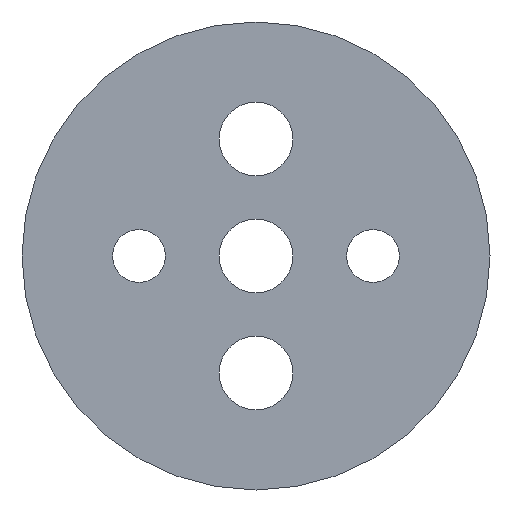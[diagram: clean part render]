
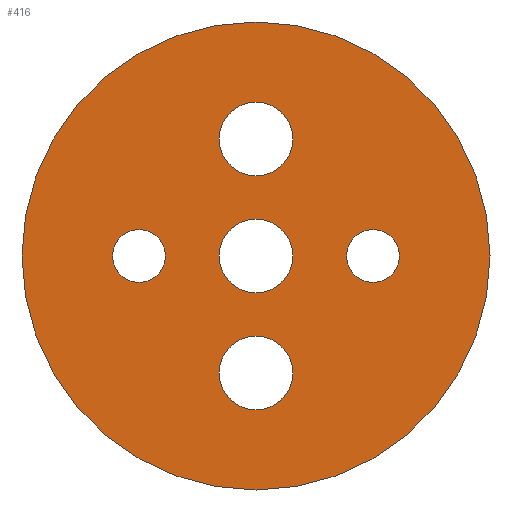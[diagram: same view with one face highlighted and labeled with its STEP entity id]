
A CAD part, front view. The second image highlights one B-rep face of the part: STEP entity #416.
In plain terms, the highlighted planar face has unit normal (0, -1, 0).
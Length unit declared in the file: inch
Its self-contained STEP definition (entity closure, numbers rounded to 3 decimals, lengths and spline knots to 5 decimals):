
#34 = EDGE_LOOP ( 'NONE', ( #417, #35 ) ) ;
#35 = ORIENTED_EDGE ( 'NONE', *, *, #141, .T. ) ;
#36 = ORIENTED_EDGE ( 'NONE', *, *, #37, .T. ) ;
#37 = EDGE_CURVE ( 'NONE', #132, #131, #277, .T. ) ;
#38 = ORIENTED_EDGE ( 'NONE', *, *, #130, .T. ) ;
#39 = EDGE_LOOP ( 'NONE', ( #40, #42 ) ) ;
#40 = ORIENTED_EDGE ( 'NONE', *, *, #41, .T. ) ;
#41 = EDGE_CURVE ( 'NONE', #318, #59, #272, .T. ) ;
#42 = ORIENTED_EDGE ( 'NONE', *, *, #58, .T. ) ;
#43 = EDGE_LOOP ( 'NONE', ( #44, #46 ) ) ;
#44 = ORIENTED_EDGE ( 'NONE', *, *, #45, .T. ) ;
#45 = EDGE_CURVE ( 'NONE', #54, #53, #267, .T. ) ;
#46 = ORIENTED_EDGE ( 'NONE', *, *, #52, .T. ) ;
#47 = EDGE_LOOP ( 'NONE', ( #104, #106 ) ) ;
#52 = EDGE_CURVE ( 'NONE', #53, #54, #293, .T. ) ;
#53 = VERTEX_POINT ( 'NONE', #289 ) ;
#54 = VERTEX_POINT ( 'NONE', #288 ) ;
#58 = EDGE_CURVE ( 'NONE', #59, #318, #381, .T. ) ;
#59 = VERTEX_POINT ( 'NONE', #372 ) ;
#60 = EDGE_CURVE ( 'NONE', #61, #97, #371, .T. ) ;
#61 = VERTEX_POINT ( 'NONE', #366 ) ;
#97 = VERTEX_POINT ( 'NONE', #389 ) ;
#100 = VERTEX_POINT ( 'NONE', #384 ) ;
#102 = EDGE_CURVE ( 'NONE', #100, #103, #317, .T. ) ;
#103 = VERTEX_POINT ( 'NONE', #312 ) ;
#104 = ORIENTED_EDGE ( 'NONE', *, *, #105, .F. ) ;
#105 = EDGE_CURVE ( 'NONE', #103, #100, #311, .T. ) ;
#106 = ORIENTED_EDGE ( 'NONE', *, *, #102, .F. ) ;
#107 = EDGE_LOOP ( 'NONE', ( #108, #109 ) ) ;
#108 = ORIENTED_EDGE ( 'NONE', *, *, #60, .T. ) ;
#109 = ORIENTED_EDGE ( 'NONE', *, *, #110, .T. ) ;
#110 = EDGE_CURVE ( 'NONE', #97, #61, #306, .T. ) ;
#130 = EDGE_CURVE ( 'NONE', #131, #132, #565, .T. ) ;
#131 = VERTEX_POINT ( 'NONE', #530 ) ;
#132 = VERTEX_POINT ( 'NONE', #529 ) ;
#141 = EDGE_CURVE ( 'NONE', #142, #143, #517, .T. ) ;
#142 = VERTEX_POINT ( 'NONE', #512 ) ;
#143 = VERTEX_POINT ( 'NONE', #511 ) ;
#257 = CARTESIAN_POINT ( 'NONE',  ( 0.5, 0., 0. ) ) ;
#263 = DIRECTION ( 'NONE',  ( 0., 0., 1. ) ) ;
#264 = DIRECTION ( 'NONE',  ( 0., 1., 0. ) ) ;
#265 = CARTESIAN_POINT ( 'NONE',  ( 0.5, 0., 0. ) ) ;
#266 = AXIS2_PLACEMENT_3D ( 'NONE', #265, #264, #263 ) ;
#267 = CIRCLE ( 'NONE', #266, 0.1125 ) ;
#268 = DIRECTION ( 'NONE',  ( 0., 0., 1. ) ) ;
#269 = DIRECTION ( 'NONE',  ( 0., 1., 0. ) ) ;
#270 = CARTESIAN_POINT ( 'NONE',  ( -0.5, 0., 0. ) ) ;
#271 = AXIS2_PLACEMENT_3D ( 'NONE', #270, #269, #268 ) ;
#272 = CIRCLE ( 'NONE', #271, 0.1125 ) ;
#273 = DIRECTION ( 'NONE',  ( 0., 0., 1. ) ) ;
#274 = DIRECTION ( 'NONE',  ( 0., 1., 0. ) ) ;
#275 = CARTESIAN_POINT ( 'NONE',  ( 0., 0., 0.5 ) ) ;
#276 = AXIS2_PLACEMENT_3D ( 'NONE', #275, #274, #273 ) ;
#277 = CIRCLE ( 'NONE', #276, 0.1575 ) ;
#288 = CARTESIAN_POINT ( 'NONE',  ( 0.5, 0., 0.1125 ) ) ;
#289 = CARTESIAN_POINT ( 'NONE',  ( 0.5, 0., -0.1125 ) ) ;
#290 = DIRECTION ( 'NONE',  ( 0., 0., 1. ) ) ;
#291 = DIRECTION ( 'NONE',  ( 0., 1., 0. ) ) ;
#292 = AXIS2_PLACEMENT_3D ( 'NONE', #257, #291, #290 ) ;
#293 = CIRCLE ( 'NONE', #292, 0.1125 ) ;
#302 = DIRECTION ( 'NONE',  ( 0., 0., 1. ) ) ;
#303 = DIRECTION ( 'NONE',  ( 0., 1., 0. ) ) ;
#304 = CARTESIAN_POINT ( 'NONE',  ( 0., 0., 0. ) ) ;
#305 = AXIS2_PLACEMENT_3D ( 'NONE', #304, #303, #302 ) ;
#306 = CIRCLE ( 'NONE', #305, 0.1575 ) ;
#307 = DIRECTION ( 'NONE',  ( 0., 0., 1. ) ) ;
#308 = DIRECTION ( 'NONE',  ( 0., 1., 0. ) ) ;
#309 = CARTESIAN_POINT ( 'NONE',  ( 0., 0., 0. ) ) ;
#310 = AXIS2_PLACEMENT_3D ( 'NONE', #309, #308, #307 ) ;
#311 = CIRCLE ( 'NONE', #310, 1. ) ;
#312 = CARTESIAN_POINT ( 'NONE',  ( 0., 0., -1. ) ) ;
#313 = DIRECTION ( 'NONE',  ( 0., 0., 1. ) ) ;
#314 = DIRECTION ( 'NONE',  ( 0., 1., 0. ) ) ;
#315 = CARTESIAN_POINT ( 'NONE',  ( 0., 0., 0. ) ) ;
#316 = AXIS2_PLACEMENT_3D ( 'NONE', #315, #314, #313 ) ;
#317 = CIRCLE ( 'NONE', #316, 1. ) ;
#318 = VERTEX_POINT ( 'NONE', #441 ) ;
#366 = CARTESIAN_POINT ( 'NONE',  ( 0., 0., -0.1575 ) ) ;
#367 = DIRECTION ( 'NONE',  ( 0., 0., 1. ) ) ;
#368 = DIRECTION ( 'NONE',  ( 0., 1., 0. ) ) ;
#369 = CARTESIAN_POINT ( 'NONE',  ( 0., 0., 0. ) ) ;
#370 = AXIS2_PLACEMENT_3D ( 'NONE', #369, #368, #367 ) ;
#371 = CIRCLE ( 'NONE', #370, 0.1575 ) ;
#372 = CARTESIAN_POINT ( 'NONE',  ( -0.5, 0., -0.1125 ) ) ;
#373 = DIRECTION ( 'NONE',  ( 0., 0., 1. ) ) ;
#374 = DIRECTION ( 'NONE',  ( 0., 1., 0. ) ) ;
#375 = CARTESIAN_POINT ( 'NONE',  ( -0.5, 0., 0. ) ) ;
#376 = AXIS2_PLACEMENT_3D ( 'NONE', #375, #374, #373 ) ;
#381 = CIRCLE ( 'NONE', #376, 0.1125 ) ;
#384 = CARTESIAN_POINT ( 'NONE',  ( 0., 0., 1. ) ) ;
#389 = CARTESIAN_POINT ( 'NONE',  ( 0., 0., 0.1575 ) ) ;
#416 = ADVANCED_FACE ( 'NONE', ( #549, #548, #547, #546, #545, #544 ), #543, .F. ) ;
#417 = ORIENTED_EDGE ( 'NONE', *, *, #418, .T. ) ;
#418 = EDGE_CURVE ( 'NONE', #143, #142, #538, .T. ) ;
#419 = EDGE_LOOP ( 'NONE', ( #36, #38 ) ) ;
#441 = CARTESIAN_POINT ( 'NONE',  ( -0.5, 0., 0.1125 ) ) ;
#505 = CARTESIAN_POINT ( 'NONE',  ( 0., 0., 0.5 ) ) ;
#511 = CARTESIAN_POINT ( 'NONE',  ( 0., 0., -0.3425 ) ) ;
#512 = CARTESIAN_POINT ( 'NONE',  ( 0., 0., -0.6575 ) ) ;
#513 = DIRECTION ( 'NONE',  ( 0., 0., 1. ) ) ;
#514 = DIRECTION ( 'NONE',  ( 0., 1., 0. ) ) ;
#515 = CARTESIAN_POINT ( 'NONE',  ( 0., 0., -0.5 ) ) ;
#516 = AXIS2_PLACEMENT_3D ( 'NONE', #515, #514, #513 ) ;
#517 = CIRCLE ( 'NONE', #516, 0.1575 ) ;
#529 = CARTESIAN_POINT ( 'NONE',  ( 0., 0., 0.6575 ) ) ;
#530 = CARTESIAN_POINT ( 'NONE',  ( 0., 0., 0.3425 ) ) ;
#531 = DIRECTION ( 'NONE',  ( 0., 0., 1. ) ) ;
#534 = DIRECTION ( 'NONE',  ( 0., 0., 1. ) ) ;
#535 = DIRECTION ( 'NONE',  ( 0., 1., 0. ) ) ;
#536 = CARTESIAN_POINT ( 'NONE',  ( 0., 0., -0.5 ) ) ;
#537 = AXIS2_PLACEMENT_3D ( 'NONE', #536, #535, #534 ) ;
#538 = CIRCLE ( 'NONE', #537, 0.1575 ) ;
#539 = DIRECTION ( 'NONE',  ( 0., 0., 1. ) ) ;
#540 = DIRECTION ( 'NONE',  ( 0., 1., 0. ) ) ;
#541 = CARTESIAN_POINT ( 'NONE',  ( 0., 0., 0. ) ) ;
#542 = AXIS2_PLACEMENT_3D ( 'NONE', #541, #540, #539 ) ;
#543 = PLANE ( 'NONE',  #542 ) ;
#544 = FACE_BOUND ( 'NONE', #107, .T. ) ;
#545 = FACE_OUTER_BOUND ( 'NONE', #47, .T. ) ;
#546 = FACE_BOUND ( 'NONE', #43, .T. ) ;
#547 = FACE_BOUND ( 'NONE', #39, .T. ) ;
#548 = FACE_BOUND ( 'NONE', #419, .T. ) ;
#549 = FACE_BOUND ( 'NONE', #34, .T. ) ;
#563 = DIRECTION ( 'NONE',  ( 0., 1., 0. ) ) ;
#564 = AXIS2_PLACEMENT_3D ( 'NONE', #505, #563, #531 ) ;
#565 = CIRCLE ( 'NONE', #564, 0.1575 ) ;
